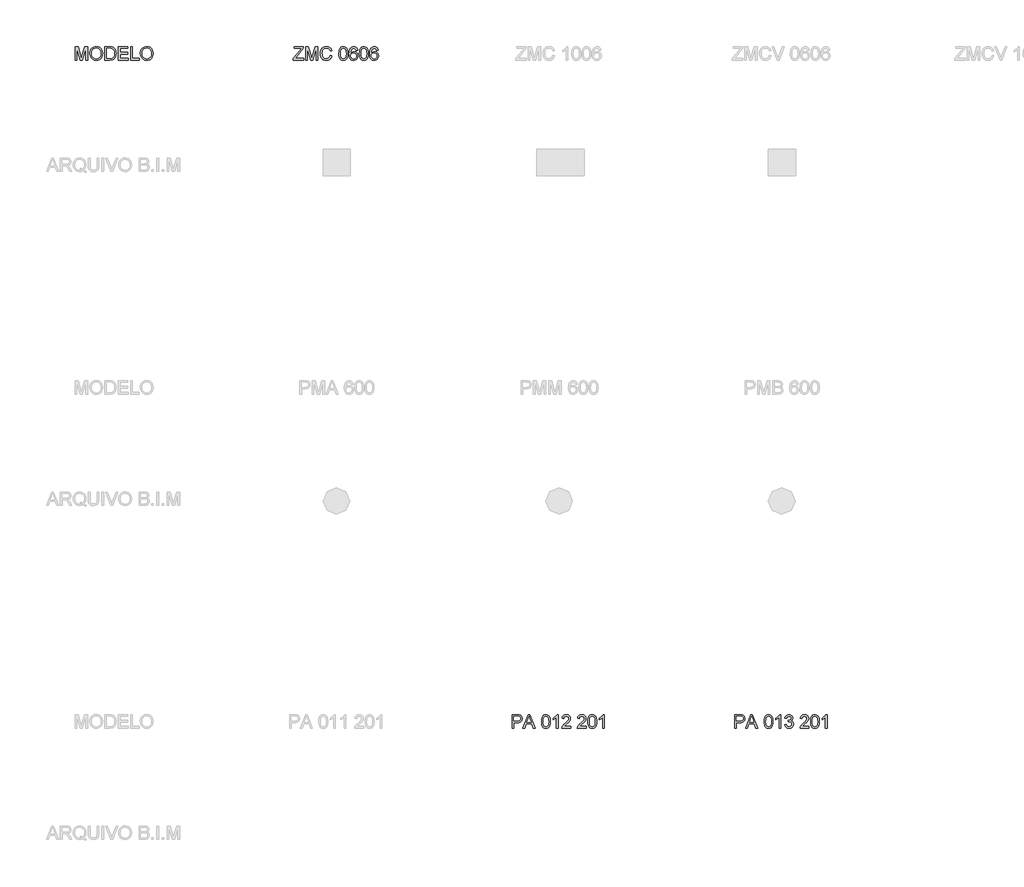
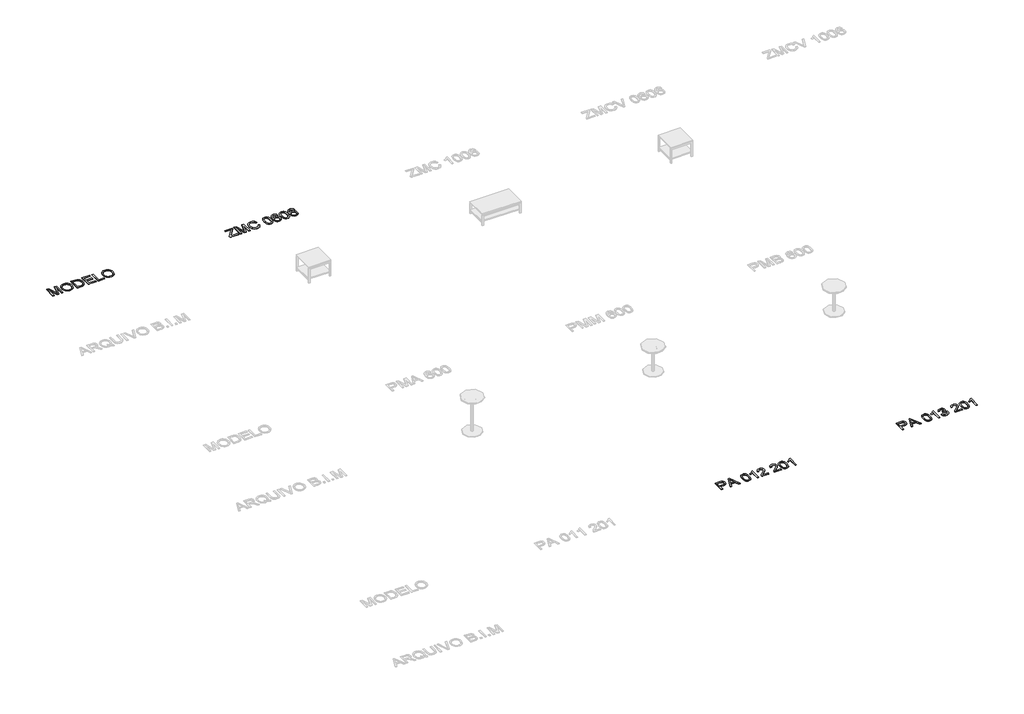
# One storey, part 3 of 5: 4 proxies.
"""IFC4 building model written with IfcOpenShell, lengths in millimetres."""

from ifc_helpers import new_model, si_unit, origin, origin_with_axes, place, context, project, spatial, polyline, outline, extrude, element, save

model = new_model("IFC4")

# Units and contexts
model_context = context("Model", 3, world=origin())
ifc_project = project(units=[si_unit("LENGTHUNIT", "METRE", prefix="MILLI")], contexts=[model_context])

# Site, building, storey
site = spatial("IfcSite", under=ifc_project)
building = spatial("IfcBuilding", under=site)
storey = spatial("IfcBuildingStorey", under=building, Name="Marelli - Linha PERFECTA - Planta Baixa", Elevation=0.0)

# Proxies
placement = place(None, origin())
element("IfcBuildingElementProxy", 1, Name="300mm Arial", ObjectType="300mm Arial", at=placement, inside=storey, context=model_context, shape_type="SweptSolid", body=[
    extrude(outline(polyline([(-5070.4724751, 16219.4336799), (-5070.4724751, 16258.5027478), (-4916.3299191, 16447.2262113), (-4887.0465123, 16483.1314941), (-5051.6369169, 16483.1314941), (-5051.6369169, 16520.8026104), (-4839.7368877, 16520.8026104), (-4839.7368877, 16483.1314941), (-5008.4475707, 16276.602542), (-5024.3400729, 16257.1047962), (-4835.0279981, 16257.1047962), (-4835.0279981, 16219.4336799), (-5070.4724751, 16219.4336799)])), origin_with_axes(), (0.0, 0.0, 1.0), 10.0),
    extrude(outline(polyline([(-4792.6479923, 16219.4336799), (-4792.6479923, 16520.8026104), (-4727.8271847, 16520.8026104), (-4666.1701624, 16308.3875464), (-4653.7357509, 16264.0209777), (-4640.2712699, 16312.0663663), (-4579.6443171, 16520.8026104), (-4514.8235095, 16520.8026104), (-4514.8235095, 16219.4336799), (-4552.4946258, 16219.4336799), (-4552.4946258, 16483.1314941), (-4628.2047405, 16219.4336799), (-4679.2667614, 16219.4336799), (-4754.976876, 16483.1314941), (-4754.976876, 16219.4336799), (-4792.6479923, 16219.4336799)])), origin_with_axes(), (0.0, 0.0, 1.0), 10.0),
    extrude(outline(polyline([(-4236.9990268, 16326.5609169), (-4199.3279105, 16316.8488323), (-4206.7821194, 16293.4216469), (-4216.7103347, 16272.9513132), (-4229.1125565, 16255.4378309), (-4243.9887847, 16240.8812003), (-4261.003327, 16229.4377709), (-4279.820491, 16221.2638929), (-4300.4402768, 16216.359566), (-4322.8626845, 16214.7247904), (-4366.5578684, 16219.6728032), (-4401.2583376, 16234.5168417), (-4427.8562059, 16258.7418711), (-4447.243587, 16291.8328566), (-4459.0801902, 16330.7363776), (-4463.0257246, 16372.3990135), (-4458.5651554, 16416.3425179), (-4445.1834479, 16454.2895457), (-4423.5795777, 16485.0352834), (-4394.4525207, 16507.3749176), (-4359.9084014, 16520.9773543), (-4322.0533441, 16525.5114999), (-4280.7493931, 16519.6437821), (-4262.7806569, 16512.3091348), (-4246.6007469, 16502.0406286), (-4232.4763775, 16489.1095765), (-4220.6742632, 16473.7872914), (-4204.0368, 16435.9690223), (-4241.7079163, 16426.9927016), (-4254.7677271, 16454.4642896), (-4272.6100039, 16473.3090448), (-4295.4554758, 16484.2075489), (-4323.524872, 16487.8403836), (-4355.8800935, 16483.8120758), (-4382.4595677, 16471.7271522), (-4402.6286981, 16452.8548059), (-4415.7528882, 16428.4642296), (-4422.9541783, 16400.8914741), (-4425.3546083, 16372.4725899), (-4422.5127199, 16337.6709532), (-4413.9870547, 16307.578206), (-4399.4557159, 16283.3439795), (-4378.5968067, 16266.1179051), (-4353.5900281, 16255.8264063), (-4326.6150808, 16252.3959067), (-4295.1703673, 16257.068008), (-4268.9679722, 16271.0843121), (-4249.1851179, 16294.297666), (-4236.9990268, 16326.5609169)])), origin_with_axes(), (0.0, 0.0, 1.0), 10.0),
    extrude(outline(polyline([(-4043.9345557, 16367.690124), (-4041.1662437, 16415.9286506), (-4032.8613077, 16454.3999103), (-4019.102521, 16483.6925141), (-3999.9726573, 16504.3950734), (-3975.3337607, 16516.7007261), (-3945.0478754, 16520.8026104), (-3921.8345215, 16518.3745892), (-3901.0491888, 16511.0905257), (-3883.6667645, 16499.2355284), (-3870.662136, 16483.0947059), (-3860.8396867, 16462.8060138), (-3853.0038002, 16438.5074081), (-3847.8718464, 16407.6513057), (-3846.1611951, 16367.690124), (-3848.901916, 16319.7275089), (-3857.1240786, 16281.3482197), (-3870.8000917, 16252.0280247), (-3889.9023643, 16231.242692), (-3914.5964433, 16218.8542658), (-3945.0478754, 16214.7247904), (-3965.7964199, 16216.5182151), (-3984.1905197, 16221.8984893), (-4000.2301747, 16230.8656129), (-4013.9153849, 16243.419586), (-4027.0487721, 16266.1133066), (-4036.429763, 16294.3896364), (-4042.0583575, 16328.2485756), (-4043.9345557, 16367.690124)]), holes=[polyline([(-4006.2634394, 16367.7637004), (-4001.8488555, 16308.507108), (-3996.3306255, 16288.2391093), (-3988.6051036, 16274.211309), (-3968.8866287, 16257.8497573), (-3945.0478754, 16252.3959067), (-3921.2091221, 16257.8681514), (-3901.4906472, 16274.2848854), (-3893.7651253, 16288.3356784), (-3888.2468954, 16308.5990785), (-3883.8323114, 16367.7637004), (-3888.0997426, 16425.6867205), (-3893.4340315, 16445.8880406), (-3900.902036, 16460.249234), (-3920.5837227, 16477.410929), (-3945.4893338, 16483.1314941), (-3969.0705697, 16478.0915107), (-3988.0164924, 16462.9715607), (-3995.9995317, 16447.3365759), (-4001.7017027, 16426.2569376), (-4006.2634394, 16367.7637004)])]), origin_with_axes(), (0.0, 0.0, 1.0), 10.0),
    extrude(outline(polyline([(-3620.1344973, 16440.7514882), (-3657.8056136, 16436.0425987), (-3663.8756665, 16454.7126099), (-3672.079435, 16467.4597211), (-3689.1675537, 16479.2135508), (-3709.8241277, 16483.1314941), (-3727.3353107, 16480.8506257), (-3743.816424, 16474.0080206), (-3757.9706838, 16459.5962434), (-3769.5313755, 16439.7582068), (-3777.3396709, 16411.6980077), (-3780.2367416, 16372.6197427), (-3765.1259886, 16390.2504873), (-3747.0169974, 16402.6757017), (-3726.9214434, 16410.0425387), (-3705.8510021, 16412.498151), (-3687.751208, 16410.8196894), (-3671.0493654, 16405.7843046), (-3655.7454744, 16397.3919966), (-3641.839535, 16385.6427654), (-3630.2834418, 16371.2355867), (-3622.0290895, 16354.8694365), (-3617.0764782, 16336.5443146), (-3615.4256077, 16316.2602211), (-3618.5342106, 16289.2852738), (-3627.8600192, 16264.2784951), (-3642.6304813, 16243.0700981), (-3662.0730447, 16227.4902956), (-3685.3047927, 16217.9161667), (-3711.4428085, 16214.7247904), (-3733.899705, 16216.8401119), (-3754.1814993, 16223.1860763), (-3772.2881912, 16233.7626836), (-3788.2197809, 16248.5699339), (-3801.2083146, 16268.2332266), (-3810.4858386, 16293.377961), (-3816.0523531, 16324.0041371), (-3817.9078579, 16360.1117549), (-3815.8477187, 16400.5925699), (-3809.6673012, 16435.1412878), (-3799.3666053, 16463.7579085), (-3784.9456311, 16486.442432), (-3769.3152448, 16501.4750101), (-3751.1924581, 16512.2125658), (-3730.5772707, 16518.6550992), (-3707.4696829, 16520.8026104), (-3674.4154857, 16515.4867156), (-3647.9463761, 16499.5390311), (-3629.4051235, 16474.2103557), (-3620.1344973, 16440.7514882)]), holes=[polyline([(-3780.2367416, 16316.8488323), (-3778.0570407, 16300.1561867), (-3771.5179383, 16284.2176993), (-3761.3643952, 16270.514095), (-3748.3413726, 16260.5260988), (-3732.6236143, 16254.4284547), (-3714.3858644, 16252.3959067), (-3689.5262386, 16256.6081555), (-3669.9825076, 16269.2449021), (-3657.3181699, 16289.1105298), (-3653.096724, 16315.0094223), (-3657.2629876, 16339.8690481), (-3669.7617784, 16358.8241679), (-3689.6366032, 16370.826318), (-3715.9309688, 16374.8270347), (-3740.7538064, 16370.826318), (-3761.511548, 16358.8241679), (-3775.5554432, 16340.3289006), (-3780.2367416, 16316.8488323)])]), origin_with_axes(), (0.0, 0.0, 1.0), 10.0),
    extrude(outline(polyline([(-3582.463381, 16367.690124), (-3579.6950689, 16415.9286506), (-3571.3901329, 16454.3999103), (-3557.6313463, 16483.6925141), (-3538.5014825, 16504.3950734), (-3513.8625859, 16516.7007261), (-3483.5767007, 16520.8026104), (-3460.3633468, 16518.3745892), (-3439.578014, 16511.0905257), (-3422.1955898, 16499.2355284), (-3409.1909612, 16483.0947059), (-3399.368512, 16462.8060138), (-3391.5326255, 16438.5074081), (-3386.4006716, 16407.6513057), (-3384.6900204, 16367.690124), (-3387.4307412, 16319.7275089), (-3395.6529038, 16281.3482197), (-3409.328917, 16252.0280247), (-3428.4311896, 16231.242692), (-3453.1252685, 16218.8542658), (-3483.5767007, 16214.7247904), (-3504.3252452, 16216.5182151), (-3522.7193449, 16221.8984893), (-3538.7589999, 16230.8656129), (-3552.4442102, 16243.419586), (-3565.5775974, 16266.1133066), (-3574.9585883, 16294.3896364), (-3580.5871828, 16328.2485756), (-3582.463381, 16367.690124)]), holes=[polyline([(-3544.7922647, 16367.7637004), (-3540.3776807, 16308.507108), (-3534.8594508, 16288.2391093), (-3527.1339289, 16274.211309), (-3507.4154539, 16257.8497573), (-3483.5767007, 16252.3959067), (-3459.7379474, 16257.8681514), (-3440.0194724, 16274.2848854), (-3432.2939505, 16288.3356784), (-3426.7757206, 16308.5990785), (-3422.3611367, 16367.7637004), (-3426.6285678, 16425.6867205), (-3431.9628567, 16445.8880406), (-3439.4308612, 16460.249234), (-3459.112548, 16477.410929), (-3484.0181591, 16483.1314941), (-3507.5993949, 16478.0915107), (-3526.5453177, 16462.9715607), (-3534.528357, 16447.3365759), (-3540.2305279, 16426.2569376), (-3544.7922647, 16367.7637004)])]), origin_with_axes(), (0.0, 0.0, 1.0), 10.0),
    extrude(outline(polyline([(-3158.6633225, 16440.7514882), (-3196.3344388, 16436.0425987), (-3202.4044917, 16454.7126099), (-3210.6082602, 16467.4597211), (-3227.6963789, 16479.2135508), (-3248.3529529, 16483.1314941), (-3265.8641359, 16480.8506257), (-3282.3452493, 16474.0080206), (-3296.4995091, 16459.5962434), (-3308.0602008, 16439.7582068), (-3315.8684961, 16411.6980077), (-3318.7655668, 16372.6197427), (-3303.6548139, 16390.2504873), (-3285.5458227, 16402.6757017), (-3265.4502687, 16410.0425387), (-3244.3798274, 16412.498151), (-3226.2800332, 16410.8196894), (-3209.5781907, 16405.7843046), (-3194.2742997, 16397.3919966), (-3180.3683602, 16385.6427654), (-3168.8122671, 16371.2355867), (-3160.5579148, 16354.8694365), (-3155.6053034, 16336.5443146), (-3153.954433, 16316.2602211), (-3157.0630358, 16289.2852738), (-3166.3888444, 16264.2784951), (-3181.1593065, 16243.0700981), (-3200.60187, 16227.4902956), (-3223.833618, 16217.9161667), (-3249.9716337, 16214.7247904), (-3272.4285303, 16216.8401119), (-3292.7103245, 16223.1860763), (-3310.8170165, 16233.7626836), (-3326.7486061, 16248.5699339), (-3339.7371398, 16268.2332266), (-3349.0146639, 16293.377961), (-3354.5811783, 16324.0041371), (-3356.4366831, 16360.1117549), (-3354.376544, 16400.5925699), (-3348.1961264, 16435.1412878), (-3337.8954306, 16463.7579085), (-3323.4744564, 16486.442432), (-3307.8440701, 16501.4750101), (-3289.7212833, 16512.2125658), (-3269.106096, 16518.6550992), (-3245.9985082, 16520.8026104), (-3212.9443109, 16515.4867156), (-3186.4752014, 16499.5390311), (-3167.9339488, 16474.2103557), (-3158.6633225, 16440.7514882)]), holes=[polyline([(-3318.7655668, 16316.8488323), (-3316.585866, 16300.1561867), (-3310.0467635, 16284.2176993), (-3299.8932205, 16270.514095), (-3286.8701978, 16260.5260988), (-3271.1524396, 16254.4284547), (-3252.9146897, 16252.3959067), (-3228.0550639, 16256.6081555), (-3208.5113329, 16269.2449021), (-3195.8469952, 16289.1105298), (-3191.6255493, 16315.0094223), (-3195.7918129, 16339.8690481), (-3208.2906037, 16358.8241679), (-3228.1654285, 16370.826318), (-3254.4597941, 16374.8270347), (-3279.2826317, 16370.826318), (-3300.0403733, 16358.8241679), (-3314.0842684, 16340.3289006), (-3318.7655668, 16316.8488323)])]), origin_with_axes(), (0.0, 0.0, 1.0), 10.0),
])
element("IfcBuildingElementProxy", 2, Name="300mm Arial", ObjectType="300mm Arial", at=placement, inside=storey, context=model_context, shape_type="SweptSolid", body=[
    extrude(outline(polyline([(-152.878042, 1219.4336799), (-152.878042, 1520.8026104), (-41.1890682, 1520.8026104), (3.839688, 1517.9331308), (23.9168479, 1512.5712507), (40.4439465, 1503.8432504), (53.7520777, 1491.3536567), (64.1723352, 1474.7069964), (70.9045757, 1455.0712949), (73.1486559, 1433.6145775), (71.6334419, 1415.1147117), (67.0878, 1398.0955709), (59.5117302, 1382.5571551), (48.9052324, 1368.4994644), (34.3440032, 1356.8468022), (14.903739, 1348.523472), (-9.4155602, 1343.529474), (-38.6138943, 1341.8648079), (-115.2069257, 1341.8648079), (-115.2069257, 1219.4336799), (-152.878042, 1219.4336799)]), holes=[polyline([(-115.2069257, 1379.5359242), (-36.4066023, 1379.5359242), (-3.0029171, 1382.994015), (19.0700026, 1393.3682873), (31.3756553, 1410.0149475), (35.4775396, 1432.2902023), (33.0587154, 1449.2127741), (25.8022431, 1463.4865955), (14.6094334, 1474.2287498), (0.3815972, 1480.5563201), (-37.2895191, 1483.1314941), (-115.2069257, 1483.1314941), (-115.2069257, 1379.5359242)])]), origin_with_axes(), (0.0, 0.0, 1.0), 10.0),
    extrude(outline(polyline([(89.8504984, 1219.4336799), (210.1479109, 1520.8026104), (242.2272208, 1520.8026104), (362.5246333, 1219.4336799), (322.7198014, 1219.4336799), (288.2124702, 1313.6114707), (164.0890851, 1313.6114707), (129.6553303, 1219.4336799), (89.8504984, 1219.4336799)]), holes=[polyline([(177.9214481, 1351.282587), (274.4536836, 1351.282587), (247.3039924, 1425.3740208), (226.1875659, 1483.1314941), (207.4255841, 1431.8487439), (177.9214481, 1351.282587)])]), origin_with_axes(), (0.0, 0.0, 1.0), 10.0),
    extrude(outline(polyline([(506.3664934, 1367.690124), (509.1348054, 1415.9286506), (517.4397414, 1454.3999103), (531.1985281, 1483.6925141), (550.3283918, 1504.3950734), (574.9672884, 1516.7007261), (605.2531737, 1520.8026104), (628.4665276, 1518.3745892), (649.2518603, 1511.0905257), (666.6342846, 1499.2355284), (679.6389131, 1483.0947059), (689.4613624, 1462.8060138), (697.2972489, 1438.5074081), (702.4292027, 1407.6513057), (704.139854, 1367.690124), (701.3991331, 1319.7275089), (693.1769705, 1281.3482197), (679.5009574, 1252.0280247), (660.3986848, 1231.242692), (635.7046058, 1218.8542658), (605.2531737, 1214.7247904), (584.5046292, 1216.5182151), (566.1105294, 1221.8984893), (550.0708744, 1230.8656129), (536.3856642, 1243.419586), (523.252277, 1266.1133066), (513.8712861, 1294.3896364), (508.2426916, 1328.2485756), (506.3664934, 1367.690124)]), holes=[polyline([(544.0376097, 1367.7637004), (548.4521936, 1308.507108), (553.9704236, 1288.2391093), (561.6959455, 1274.211309), (581.4144204, 1257.8497573), (605.2531737, 1252.3959067), (629.091927, 1257.8681514), (648.8104019, 1274.2848854), (656.5359238, 1288.3356784), (662.0541537, 1308.5990785), (666.4687377, 1367.7637004), (662.2013065, 1425.6867205), (656.8670176, 1445.8880406), (649.3990131, 1460.249234), (629.7173264, 1477.410929), (604.8117153, 1483.1314941), (581.2304794, 1478.0915107), (562.2845566, 1462.9715607), (554.3015174, 1447.3365759), (548.5993464, 1426.2569376), (544.0376097, 1367.7637004)])]), origin_with_axes(), (0.0, 0.0, 1.0), 10.0),
    extrude(outline(polyline([(878.3687669, 1219.4336799), (840.6976506, 1219.4336799), (840.6976506, 1454.2895457), (805.0130971, 1428.8688998), (765.355418, 1409.8494006), (765.355418, 1445.4603778), (794.9423274, 1461.5552151), (820.5745055, 1480.7034729), (840.780424, 1501.0657413), (854.0885552, 1520.8026104), (878.3687669, 1520.8026104), (878.3687669, 1219.4336799)])), origin_with_axes(), (0.0, 0.0, 1.0), 10.0),
    extrude(outline(polyline([(1160.9021392, 1257.1047962), (1160.9021392, 1219.4336799), (963.1287786, 1219.4336799), (967.1754805, 1245.4061488), (976.4645009, 1265.7040379), (990.0577406, 1285.3949217), (1009.7210333, 1306.0055104), (1037.2202124, 1329.0625145), (1077.8711729, 1365.1701323), (1102.2617492, 1391.8231829), (1114.4570373, 1413.4546442), (1118.5221334, 1434.4974943), (1114.6869636, 1453.3606436), (1103.1814542, 1469.0416137), (1085.4955272, 1479.609024), (1063.1191049, 1483.1314941), (1039.6206424, 1479.6917974), (1021.3644984, 1469.3727075), (1009.5830775, 1452.9835646), (1005.5087844, 1431.3337092), (967.8376681, 1436.0425987), (976.9703387, 1472.4813103), (985.5166973, 1487.0172476), (996.7164048, 1499.0975727), (1010.3119437, 1508.5935267), (1026.0457968, 1515.376351), (1063.9284453, 1520.8026104), (1084.118269, 1519.2942942), (1102.0870052, 1514.7693457), (1117.8346539, 1507.2277648), (1131.361215, 1496.6695515), (1142.2252302, 1483.8764551), (1149.985241, 1469.6302249), (1154.6412475, 1453.9308607), (1156.1932497, 1436.7783627), (1154.5193866, 1418.761342), (1149.4977974, 1401.057021), (1140.585856, 1383.0491973), (1127.2409366, 1364.1216686), (1105.9681603, 1341.5245171), (1073.272648, 1312.5078247), (1029.9361489, 1276.2714482), (1012.9400007, 1257.1047962), (1160.9021392, 1257.1047962)])), origin_with_axes(), (0.0, 0.0, 1.0), 10.0),
    extrude(outline(polyline([(1509.359965, 1257.1047962), (1509.359965, 1219.4336799), (1311.5866044, 1219.4336799), (1315.6333064, 1245.4061488), (1324.9223268, 1265.7040379), (1338.5155665, 1285.3949217), (1358.1788591, 1306.0055104), (1385.6780383, 1329.0625145), (1426.3289987, 1365.1701323), (1450.719575, 1391.8231829), (1462.9148631, 1413.4546442), (1466.9799592, 1434.4974943), (1463.1447894, 1453.3606436), (1451.63928, 1469.0416137), (1433.9533531, 1479.609024), (1411.5769307, 1483.1314941), (1388.0784683, 1479.6917974), (1369.8223243, 1469.3727075), (1358.0409034, 1452.9835646), (1353.9666103, 1431.3337092), (1316.295494, 1436.0425987), (1325.4281645, 1472.4813103), (1333.9745231, 1487.0172476), (1345.1742306, 1499.0975727), (1358.7697696, 1508.5935267), (1374.5036227, 1515.376351), (1412.3862711, 1520.8026104), (1432.5760949, 1519.2942942), (1450.5448311, 1514.7693457), (1466.2924797, 1507.2277648), (1479.8190408, 1496.6695515), (1490.683056, 1483.8764551), (1498.4430668, 1469.6302249), (1503.0990733, 1453.9308607), (1504.6510755, 1436.7783627), (1502.9772124, 1418.761342), (1497.9556232, 1401.057021), (1489.0436818, 1383.0491973), (1475.6987625, 1364.1216686), (1454.4259861, 1341.5245171), (1421.7304738, 1312.5078247), (1378.3939748, 1276.2714482), (1361.3978266, 1257.1047962), (1509.359965, 1257.1047962)])), origin_with_axes(), (0.0, 0.0, 1.0), 10.0),
    extrude(outline(polyline([(1547.0310813, 1367.690124), (1549.7993934, 1415.9286506), (1558.1043294, 1454.3999103), (1571.863116, 1483.6925141), (1590.9929798, 1504.3950734), (1615.6318764, 1516.7007261), (1645.9177616, 1520.8026104), (1669.1311155, 1518.3745892), (1689.9164483, 1511.0905257), (1707.2988725, 1499.2355284), (1720.3035011, 1483.0947059), (1730.1259503, 1462.8060138), (1737.9618368, 1438.5074081), (1743.0937907, 1407.6513057), (1744.8044419, 1367.690124), (1742.0637211, 1319.7275089), (1733.8415585, 1281.3482197), (1720.1655453, 1252.0280247), (1701.0632727, 1231.242692), (1676.3691938, 1218.8542658), (1645.9177616, 1214.7247904), (1625.1692171, 1216.5182151), (1606.7751174, 1221.8984893), (1590.7354624, 1230.8656129), (1577.0502521, 1243.419586), (1563.9168649, 1266.1133066), (1554.535874, 1294.3896364), (1548.9072795, 1328.2485756), (1547.0310813, 1367.690124)]), holes=[polyline([(1584.7021976, 1367.7637004), (1589.1167816, 1308.507108), (1594.6350115, 1288.2391093), (1602.3605334, 1274.211309), (1622.0790084, 1257.8497573), (1645.9177616, 1252.3959067), (1669.7565149, 1257.8681514), (1689.4749899, 1274.2848854), (1697.2005118, 1288.3356784), (1702.7187417, 1308.5990785), (1707.1333256, 1367.7637004), (1702.8658945, 1425.6867205), (1697.5316056, 1445.8880406), (1690.0636011, 1460.249234), (1670.3819143, 1477.410929), (1645.4763032, 1483.1314941), (1621.8950674, 1478.0915107), (1602.9491446, 1462.9715607), (1594.9661053, 1447.3365759), (1589.2639344, 1426.2569376), (1584.7021976, 1367.7637004)])]), origin_with_axes(), (0.0, 0.0, 1.0), 10.0),
    extrude(outline(polyline([(1919.0333549, 1219.4336799), (1881.3622386, 1219.4336799), (1881.3622386, 1454.2895457), (1845.677685, 1428.8688998), (1806.0200059, 1409.8494006), (1806.0200059, 1445.4603778), (1835.6069154, 1461.5552151), (1861.2390934, 1480.7034729), (1881.445012, 1501.0657413), (1894.7531432, 1520.8026104), (1919.0333549, 1520.8026104), (1919.0333549, 1219.4336799)])), origin_with_axes(), (0.0, 0.0, 1.0), 10.0),
])
element("IfcBuildingElementProxy", 3, Name="300mm Arial", ObjectType="300mm Arial", at=placement, inside=storey, context=model_context, shape_type="SweptSolid", body=[
    extrude(outline(polyline([(4847.121958, 1219.4336799), (4847.121958, 1520.8026104), (4958.8109318, 1520.8026104), (5003.839688, 1517.9331308), (5023.9168479, 1512.5712507), (5040.4439465, 1503.8432504), (5053.7520777, 1491.3536567), (5064.1723352, 1474.7069964), (5070.9045757, 1455.0712949), (5073.1486559, 1433.6145775), (5071.6334419, 1415.1147117), (5067.0878, 1398.0955709), (5059.5117302, 1382.5571551), (5048.9052324, 1368.4994644), (5034.3440032, 1356.8468022), (5014.903739, 1348.523472), (4990.5844398, 1343.529474), (4961.3861057, 1341.8648079), (4884.7930743, 1341.8648079), (4884.7930743, 1219.4336799), (4847.121958, 1219.4336799)]), holes=[polyline([(4884.7930743, 1379.5359242), (4963.5933977, 1379.5359242), (4996.9970829, 1382.994015), (5019.0700026, 1393.3682873), (5031.3756553, 1410.0149475), (5035.4775396, 1432.2902023), (5033.0587154, 1449.2127741), (5025.8022431, 1463.4865955), (5014.6094334, 1474.2287498), (5000.3815972, 1480.5563201), (4962.7104809, 1483.1314941), (4884.7930743, 1483.1314941), (4884.7930743, 1379.5359242)])]), origin_with_axes(), (0.0, 0.0, 1.0), 10.0),
    extrude(outline(polyline([(5089.8504984, 1219.4336799), (5210.1479109, 1520.8026104), (5242.2272208, 1520.8026104), (5362.5246333, 1219.4336799), (5322.7198014, 1219.4336799), (5288.2124702, 1313.6114707), (5164.0890851, 1313.6114707), (5129.6553303, 1219.4336799), (5089.8504984, 1219.4336799)]), holes=[polyline([(5177.9214481, 1351.282587), (5274.4536836, 1351.282587), (5247.3039924, 1425.3740208), (5226.1875659, 1483.1314941), (5207.4255841, 1431.8487439), (5177.9214481, 1351.282587)])]), origin_with_axes(), (0.0, 0.0, 1.0), 10.0),
    extrude(outline(polyline([(5506.3664934, 1367.690124), (5509.1348054, 1415.9286506), (5517.4397414, 1454.3999103), (5531.1985281, 1483.6925141), (5550.3283918, 1504.3950734), (5574.9672884, 1516.7007261), (5605.2531737, 1520.8026104), (5628.4665276, 1518.3745892), (5649.2518603, 1511.0905257), (5666.6342846, 1499.2355284), (5679.6389131, 1483.0947059), (5689.4613624, 1462.8060138), (5697.2972489, 1438.5074081), (5702.4292027, 1407.6513057), (5704.139854, 1367.690124), (5701.3991331, 1319.7275089), (5693.1769705, 1281.3482197), (5679.5009574, 1252.0280247), (5660.3986848, 1231.242692), (5635.7046058, 1218.8542658), (5605.2531737, 1214.7247904), (5584.5046292, 1216.5182151), (5566.1105294, 1221.8984893), (5550.0708744, 1230.8656129), (5536.3856642, 1243.419586), (5523.252277, 1266.1133066), (5513.8712861, 1294.3896364), (5508.2426916, 1328.2485756), (5506.3664934, 1367.690124)]), holes=[polyline([(5544.0376097, 1367.7637004), (5548.4521936, 1308.507108), (5553.9704236, 1288.2391093), (5561.6959455, 1274.211309), (5581.4144204, 1257.8497573), (5605.2531737, 1252.3959067), (5629.091927, 1257.8681514), (5648.8104019, 1274.2848854), (5656.5359238, 1288.3356784), (5662.0541537, 1308.5990785), (5666.4687377, 1367.7637004), (5662.2013065, 1425.6867205), (5656.8670176, 1445.8880406), (5649.3990131, 1460.249234), (5629.7173264, 1477.410929), (5604.8117153, 1483.1314941), (5581.2304794, 1478.0915107), (5562.2845566, 1462.9715607), (5554.3015174, 1447.3365759), (5548.5993464, 1426.2569376), (5544.0376097, 1367.7637004)])]), origin_with_axes(), (0.0, 0.0, 1.0), 10.0),
    extrude(outline(polyline([(5878.3687669, 1219.4336799), (5840.6976506, 1219.4336799), (5840.6976506, 1454.2895457), (5805.0130971, 1428.8688998), (5765.355418, 1409.8494006), (5765.355418, 1445.4603778), (5794.9423274, 1461.5552151), (5820.5745055, 1480.7034729), (5840.780424, 1501.0657413), (5854.0885552, 1520.8026104), (5878.3687669, 1520.8026104), (5878.3687669, 1219.4336799)])), origin_with_axes(), (0.0, 0.0, 1.0), 10.0),
    extrude(outline(polyline([(5967.8376681, 1299.4848021), (6005.5087844, 1304.1936916), (6013.9424792, 1280.5204852), (6026.2941172, 1264.5360125), (6043.1707037, 1255.4309332), (6065.1792441, 1252.3959067), (6091.0045601, 1256.5713673), (6110.9437643, 1269.0977493), (6123.6908754, 1287.7861546), (6127.9399124, 1310.4476855), (6123.7276636, 1331.9595852), (6111.0909171, 1349.4063888), (6091.9610533, 1360.9670805), (6068.2694528, 1364.8206444), (6041.8555256, 1360.7003661), (6046.0493803, 1398.3714824), (6052.082645, 1397.930024), (6074.6522054, 1400.6339567), (6094.8305329, 1408.7457546), (6109.0675661, 1422.4677531), (6113.8132438, 1442.002287), (6110.3735472, 1458.2718683), (6100.0544572, 1471.4696348), (6084.3091078, 1480.2160293), (6064.5906329, 1483.1314941), (6044.8353697, 1480.1884381), (6028.6853501, 1471.3592702), (6016.8947322, 1456.6439904), (6010.217674, 1436.0425987), (5972.5465577, 1440.7514882), (5983.6381998, 1474.5782377), (6003.3750689, 1499.8333367), (6030.3776073, 1515.5602919), (6063.2662577, 1520.8026104), (6086.9486611, 1518.2182394), (6108.6996841, 1510.4651263), (6127.0386015, 1498.23305), (6140.4846885, 1482.2117891), (6148.7344422, 1463.75331), (6151.4843601, 1444.209579), (6148.872398, 1425.9994202), (6141.0365115, 1409.4815186), (6128.0870652, 1395.4100323), (6110.1344239, 1384.5391194), (6133.7156598, 1375.0109757), (6151.1900545, 1358.7873797), (6162.0057852, 1336.7512482), (6165.6110287, 1309.7854979), (6163.808407, 1290.6740283), (6158.4005416, 1273.0708748), (6149.3874328, 1256.9760375), (6136.7690803, 1242.3895164), (6121.3962114, 1230.2861988), (6104.1195532, 1221.6409719), (6084.9391057, 1216.4538358), (6063.8548689, 1214.7247904), (6044.7985815, 1216.2009169), (6027.4345514, 1220.6292964), (6011.7627784, 1228.0099289), (5997.7832625, 1238.3428145), (5986.0616225, 1251.0209477), (5977.1634767, 1265.4373234), (5971.0888253, 1281.5919415), (5967.8376681, 1299.4848021)])), origin_with_axes(), (0.0, 0.0, 1.0), 10.0),
    extrude(outline(polyline([(6509.359965, 1257.1047962), (6509.359965, 1219.4336799), (6311.5866044, 1219.4336799), (6315.6333064, 1245.4061488), (6324.9223268, 1265.7040379), (6338.5155665, 1285.3949217), (6358.1788591, 1306.0055104), (6385.6780383, 1329.0625145), (6426.3289987, 1365.1701323), (6450.719575, 1391.8231829), (6462.9148631, 1413.4546442), (6466.9799592, 1434.4974943), (6463.1447894, 1453.3606436), (6451.63928, 1469.0416137), (6433.9533531, 1479.609024), (6411.5769307, 1483.1314941), (6388.0784683, 1479.6917974), (6369.8223243, 1469.3727075), (6358.0409034, 1452.9835646), (6353.9666103, 1431.3337092), (6316.295494, 1436.0425987), (6325.4281645, 1472.4813103), (6333.9745231, 1487.0172476), (6345.1742306, 1499.0975727), (6358.7697696, 1508.5935267), (6374.5036227, 1515.376351), (6412.3862711, 1520.8026104), (6432.5760949, 1519.2942942), (6450.5448311, 1514.7693457), (6466.2924797, 1507.2277648), (6479.8190408, 1496.6695515), (6490.683056, 1483.8764551), (6498.4430668, 1469.6302249), (6503.0990733, 1453.9308607), (6504.6510755, 1436.7783627), (6502.9772124, 1418.761342), (6497.9556232, 1401.057021), (6489.0436818, 1383.0491973), (6475.6987625, 1364.1216686), (6454.4259861, 1341.5245171), (6421.7304738, 1312.5078247), (6378.3939748, 1276.2714482), (6361.3978266, 1257.1047962), (6509.359965, 1257.1047962)])), origin_with_axes(), (0.0, 0.0, 1.0), 10.0),
    extrude(outline(polyline([(6547.0310813, 1367.690124), (6549.7993934, 1415.9286506), (6558.1043294, 1454.3999103), (6571.863116, 1483.6925141), (6590.9929798, 1504.3950734), (6615.6318764, 1516.7007261), (6645.9177616, 1520.8026104), (6669.1311155, 1518.3745892), (6689.9164483, 1511.0905257), (6707.2988725, 1499.2355284), (6720.3035011, 1483.0947059), (6730.1259503, 1462.8060138), (6737.9618368, 1438.5074081), (6743.0937907, 1407.6513057), (6744.8044419, 1367.690124), (6742.0637211, 1319.7275089), (6733.8415585, 1281.3482197), (6720.1655453, 1252.0280247), (6701.0632727, 1231.242692), (6676.3691938, 1218.8542658), (6645.9177616, 1214.7247904), (6625.1692171, 1216.5182151), (6606.7751174, 1221.8984893), (6590.7354624, 1230.8656129), (6577.0502521, 1243.419586), (6563.9168649, 1266.1133066), (6554.535874, 1294.3896364), (6548.9072795, 1328.2485756), (6547.0310813, 1367.690124)]), holes=[polyline([(6584.7021976, 1367.7637004), (6589.1167816, 1308.507108), (6594.6350115, 1288.2391093), (6602.3605334, 1274.211309), (6622.0790084, 1257.8497573), (6645.9177616, 1252.3959067), (6669.7565149, 1257.8681514), (6689.4749899, 1274.2848854), (6697.2005118, 1288.3356784), (6702.7187417, 1308.5990785), (6707.1333256, 1367.7637004), (6702.8658945, 1425.6867205), (6697.5316056, 1445.8880406), (6690.0636011, 1460.249234), (6670.3819143, 1477.410929), (6645.4763032, 1483.1314941), (6621.8950674, 1478.0915107), (6602.9491446, 1462.9715607), (6594.9661053, 1447.3365759), (6589.2639344, 1426.2569376), (6584.7021976, 1367.7637004)])]), origin_with_axes(), (0.0, 0.0, 1.0), 10.0),
    extrude(outline(polyline([(6919.0333549, 1219.4336799), (6881.3622386, 1219.4336799), (6881.3622386, 1454.2895457), (6845.677685, 1428.8688998), (6806.0200059, 1409.8494006), (6806.0200059, 1445.4603778), (6835.6069154, 1461.5552151), (6861.2390934, 1480.7034729), (6881.445012, 1501.0657413), (6894.7531432, 1520.8026104), (6919.0333549, 1520.8026104), (6919.0333549, 1219.4336799)])), origin_with_axes(), (0.0, 0.0, 1.0), 10.0),
])
element("IfcBuildingElementProxy", 4, Name="300mm Arial", ObjectType="300mm Arial", at=placement, inside=storey, context=model_context, shape_type="SweptSolid", body=[
    extrude(outline(polyline([(-9966.8769052, 16219.4336799), (-9966.8769052, 16520.8026104), (-9902.0560977, 16520.8026104), (-9840.3990753, 16308.3875464), (-9827.9646638, 16264.0209777), (-9814.5001828, 16312.0663663), (-9753.87323, 16520.8026104), (-9689.0524225, 16520.8026104), (-9689.0524225, 16219.4336799), (-9726.7235388, 16219.4336799), (-9726.7235388, 16483.1314941), (-9802.4336534, 16219.4336799), (-9853.4956743, 16219.4336799), (-9929.2057889, 16483.1314941), (-9929.2057889, 16219.4336799), (-9966.8769052, 16219.4336799)])), origin_with_axes(), (0.0, 0.0, 1.0), 10.0),
    extrude(outline(polyline([(-9637.2546375, 16366.1450196), (-9634.7438429, 16401.4938808), (-9627.2114591, 16432.786843), (-9614.657486, 16460.0239063), (-9597.0819237, 16483.2050705), (-9575.5378343, 16501.7141334), (-9551.0782802, 16514.9348926), (-9523.7032612, 16522.8673481), (-9493.4127774, 16525.5114999), (-9453.883857, 16520.545093), (-9418.4384268, 16505.6458722), (-9389.0078672, 16481.8623012), (-9367.5235587, 16450.2428437), (-9354.3901714, 16412.31421), (-9350.0123757, 16369.6031104), (-9354.6200977, 16326.3217936), (-9368.4432637, 16287.859731), (-9390.7185185, 16256.1850913), (-9420.682507, 16233.266043), (-9455.8244346, 16219.3601035), (-9493.6335066, 16214.7247904), (-9533.7694323, 16219.8475472), (-9569.4171976, 16235.2158175), (-9598.7741808, 16259.4408469), (-9620.0377602, 16291.1338808), (-9632.9504182, 16327.6001836), (-9637.2546375, 16366.1450196)]), holes=[polyline([(-9599.5835212, 16365.7771376), (-9597.7004253, 16340.8025487), (-9592.0511374, 16318.6330599), (-9582.6356576, 16299.2686714), (-9569.4539858, 16282.7093831), (-9553.4304257, 16269.4472372), (-9535.4892806, 16259.9742758), (-9515.6305507, 16254.290499), (-9493.8542358, 16252.3959067), (-9471.7054404, 16254.3088931), (-9451.6121857, 16260.0478522), (-9433.5744716, 16269.6127841), (-9417.5922982, 16283.0036887), (-9404.5071955, 16299.9124649), (-9395.1606936, 16320.0310115), (-9389.5527924, 16343.3593285), (-9387.683492, 16369.897416), (-9390.8840654, 16403.2459188), (-9400.4857854, 16432.0694731), (-9416.2403319, 16455.641512), (-9437.8993843, 16473.2354684), (-9464.0282031, 16484.1891548), (-9493.1920482, 16487.8403836), (-9514.2119057, 16486.0814478), (-9533.71425, 16480.8046405), (-9551.699081, 16472.0099615), (-9568.1663988, 16459.697411), (-9581.9113899, 16443.2737792), (-9591.7292406, 16422.1458563), (-9597.6199511, 16396.3136425), (-9599.5835212, 16365.7771376)])]), origin_with_axes(), (0.0, 0.0, 1.0), 10.0),
    extrude(outline(polyline([(-9298.2145908, 16219.4336799), (-9298.2145908, 16520.8026104), (-9194.2511389, 16520.8026104), (-9140.4667912, 16516.4616028), (-9116.444097, 16508.0922874), (-9096.173799, 16494.9037179), (-9075.333284, 16471.9478814), (-9060.4892455, 16443.4002386), (-9051.6048953, 16409.8126124), (-9048.6434453, 16371.7368259), (-9050.6484021, 16339.3908015), (-9056.6632727, 16310.9259321), (-9065.8235344, 16286.6917057), (-9077.2646645, 16267.0376101), (-9090.4348399, 16251.522187), (-9104.7822377, 16239.7039779), (-9121.254154, 16230.9391893), (-9140.797885, 16224.5840279), (-9189.2479438, 16219.4336799), (-9298.2145908, 16219.4336799)]), holes=[polyline([(-9260.5434745, 16257.1047962), (-9193.8832569, 16257.1047962), (-9166.3105014, 16258.4659596), (-9145.39641, 16262.5494498), (-9129.6142724, 16269.1161434), (-9117.4373783, 16277.9269172), (-9104.3499764, 16294.2332866), (-9094.51833, 16315.3405161), (-9088.3655037, 16341.3405761), (-9086.3145616, 16372.3254371), (-9090.3336724, 16413.3810678), (-9102.3910047, 16443.6945442), (-9120.2056904, 16464.5166651), (-9141.4968608, 16477.0982294), (-9163.1651103, 16481.6231779), (-9194.9133265, 16483.1314941), (-9260.5434745, 16483.1314941), (-9260.5434745, 16257.1047962)])]), origin_with_axes(), (0.0, 0.0, 1.0), 10.0),
    extrude(outline(polyline([(-8996.8456603, 16219.4336799), (-8996.8456603, 16520.8026104), (-8780.2367416, 16520.8026104), (-8780.2367416, 16483.1314941), (-8959.174544, 16483.1314941), (-8959.174544, 16393.6625928), (-8789.6545206, 16393.6625928), (-8789.6545206, 16355.9914765), (-8959.174544, 16355.9914765), (-8959.174544, 16257.1047962), (-8775.527852, 16257.1047962), (-8775.527852, 16219.4336799), (-8996.8456603, 16219.4336799)])), origin_with_axes(), (0.0, 0.0, 1.0), 10.0),
    extrude(outline(polyline([(-8719.0211776, 16219.4336799), (-8719.0211776, 16520.8026104), (-8681.3500613, 16520.8026104), (-8681.3500613, 16257.1047962), (-8530.665596, 16257.1047962), (-8530.665596, 16219.4336799), (-8719.0211776, 16219.4336799)])), origin_with_axes(), (0.0, 0.0, 1.0), 10.0),
    extrude(outline(polyline([(-8502.4122588, 16366.1450196), (-8499.9014642, 16401.4938808), (-8492.3690803, 16432.786843), (-8479.8151073, 16460.0239063), (-8462.2395449, 16483.2050705), (-8440.6954556, 16501.7141334), (-8416.2359014, 16514.9348926), (-8388.8608825, 16522.8673481), (-8358.5703987, 16525.5114999), (-8319.0414783, 16520.545093), (-8283.5960481, 16505.6458722), (-8254.1654885, 16481.8623012), (-8232.6811799, 16450.2428437), (-8219.5477927, 16412.31421), (-8215.169997, 16369.6031104), (-8219.777719, 16326.3217936), (-8233.6008849, 16287.859731), (-8255.8761397, 16256.1850913), (-8285.8401283, 16233.266043), (-8320.9820558, 16219.3601035), (-8358.7911279, 16214.7247904), (-8398.9270536, 16219.8475472), (-8434.5748189, 16235.2158175), (-8463.9318021, 16259.4408469), (-8485.1953814, 16291.1338808), (-8498.1080395, 16327.6001836), (-8502.4122588, 16366.1450196)]), holes=[polyline([(-8464.7411425, 16365.7771376), (-8462.8580465, 16340.8025487), (-8457.2087587, 16318.6330599), (-8447.7932788, 16299.2686714), (-8434.6116071, 16282.7093831), (-8418.5880469, 16269.4472372), (-8400.6469019, 16259.9742758), (-8380.7881719, 16254.290499), (-8359.0118571, 16252.3959067), (-8336.8630617, 16254.3088931), (-8316.769807, 16260.0478522), (-8298.7320929, 16269.6127841), (-8282.7499195, 16283.0036887), (-8269.6648168, 16299.9124649), (-8260.3183148, 16320.0310115), (-8254.7104137, 16343.3593285), (-8252.8411133, 16369.897416), (-8256.0416866, 16403.2459188), (-8265.6434067, 16432.0694731), (-8281.3979532, 16455.641512), (-8303.0570056, 16473.2354684), (-8329.1858243, 16484.1891548), (-8358.3496695, 16487.8403836), (-8379.369527, 16486.0814478), (-8398.8718713, 16480.8046405), (-8416.8567023, 16472.0099615), (-8433.3240201, 16459.697411), (-8447.0690112, 16443.2737792), (-8456.8868619, 16422.1458563), (-8462.7775724, 16396.3136425), (-8464.7411425, 16365.7771376)])]), origin_with_axes(), (0.0, 0.0, 1.0), 10.0),
])

save(model, "model.ifc")
